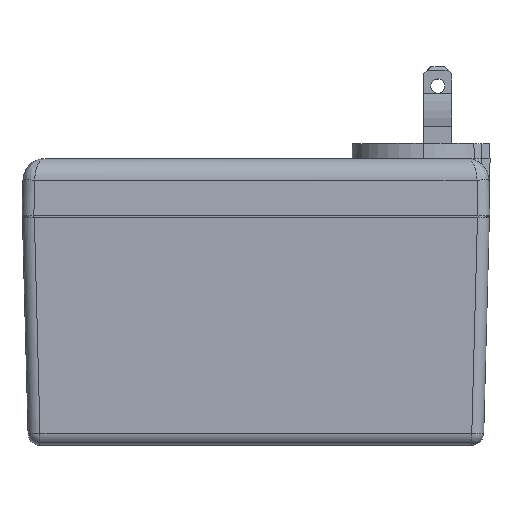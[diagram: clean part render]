
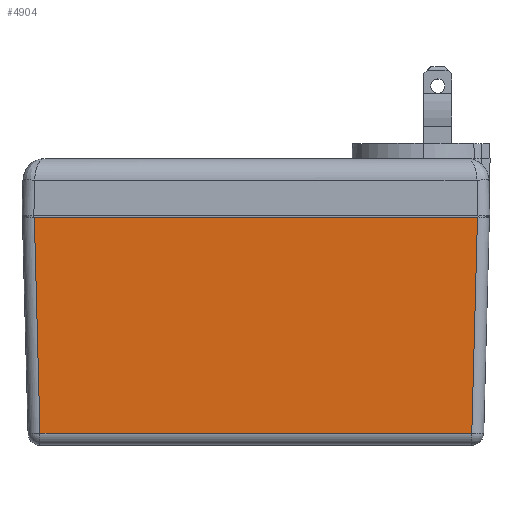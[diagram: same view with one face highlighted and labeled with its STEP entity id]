
A CAD part, top view. The second image highlights one B-rep face of the part: STEP entity #4904.
In plain terms, the highlighted planar face has unit normal (0, -0.026, 1).
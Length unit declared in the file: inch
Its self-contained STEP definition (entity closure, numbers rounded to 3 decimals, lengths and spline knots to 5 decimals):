
#25 = LINE ( 'NONE', #15284, #113 ) ;
#111 = VECTOR ( 'NONE', #15279, 39.37008 ) ;
#112 = VECTOR ( 'NONE', #15281, 39.37008 ) ;
#113 = VECTOR ( 'NONE', #15283, 39.37008 ) ;
#118 = LINE ( 'NONE', #15280, #111 ) ;
#119 = LINE ( 'NONE', #15282, #112 ) ;
#199 = VECTOR ( 'NONE', #14976, 39.37008 ) ;
#200 = LINE ( 'NONE', #14975, #199 ) ;
#3635 = EDGE_LOOP ( 'NONE', ( #16752, #16751, #16750, #16749 ) ) ;
#4904 = ADVANCED_FACE ( 'NONE', ( #13652 ), #16508, .T. ) ;
#9627 = VERTEX_POINT ( 'NONE', #15715 ) ;
#9630 = VERTEX_POINT ( 'NONE', #15710 ) ;
#9647 = VERTEX_POINT ( 'NONE', #15690 ) ;
#9660 = VERTEX_POINT ( 'NONE', #15672 ) ;
#12177 = EDGE_CURVE ( 'NONE', #9647, #9627, #200, .T. ) ;
#12191 = EDGE_CURVE ( 'NONE', #9627, #9660, #25, .T. ) ;
#12192 = EDGE_CURVE ( 'NONE', #9630, #9647, #119, .T. ) ;
#12193 = EDGE_CURVE ( 'NONE', #9630, #9660, #118, .T. ) ;
#12690 = AXIS2_PLACEMENT_3D ( 'NONE', #16509, #16506, #16505 ) ;
#13652 = FACE_OUTER_BOUND ( 'NONE', #3635, .T. ) ;
#14975 = CARTESIAN_POINT ( 'NONE',  ( -2.0545, -1.90275, 1.06617 ) ) ;
#14976 = DIRECTION ( 'NONE',  ( 1., 0., 0. ) ) ;
#15279 = DIRECTION ( 'NONE',  ( 1., 0., 0. ) ) ;
#15280 = CARTESIAN_POINT ( 'NONE',  ( -2.0545, 0., 1.116 ) ) ;
#15281 = DIRECTION ( 'NONE',  ( 0.026, -0.999, -0.026 ) ) ;
#15282 = CARTESIAN_POINT ( 'NONE',  ( -1.94961, 0.00274, 1.11607 ) ) ;
#15283 = DIRECTION ( 'NONE',  ( 0.026, 0.999, 0.026 ) ) ;
#15284 = CARTESIAN_POINT ( 'NONE',  ( 1.94679, -0.10471, 1.11326 ) ) ;
#15672 = CARTESIAN_POINT ( 'NONE',  ( 1.94954, 0., 1.116 ) ) ;
#15690 = CARTESIAN_POINT ( 'NONE',  ( -1.89971, -1.90275, 1.06617 ) ) ;
#15710 = CARTESIAN_POINT ( 'NONE',  ( -1.94954, 0., 1.116 ) ) ;
#15715 = CARTESIAN_POINT ( 'NONE',  ( 1.89971, -1.90275, 1.06617 ) ) ;
#16505 = DIRECTION ( 'NONE',  ( 0., -1., -0.026 ) ) ;
#16506 = DIRECTION ( 'NONE',  ( 0., -0.026, 1. ) ) ;
#16508 = PLANE ( 'NONE',  #12690 ) ;
#16509 = CARTESIAN_POINT ( 'NONE',  ( -2.0545, 0., 1.116 ) ) ;
#16749 = ORIENTED_EDGE ( 'NONE', *, *, #12192, .T. ) ;
#16750 = ORIENTED_EDGE ( 'NONE', *, *, #12193, .F. ) ;
#16751 = ORIENTED_EDGE ( 'NONE', *, *, #12191, .T. ) ;
#16752 = ORIENTED_EDGE ( 'NONE', *, *, #12177, .T. ) ;
